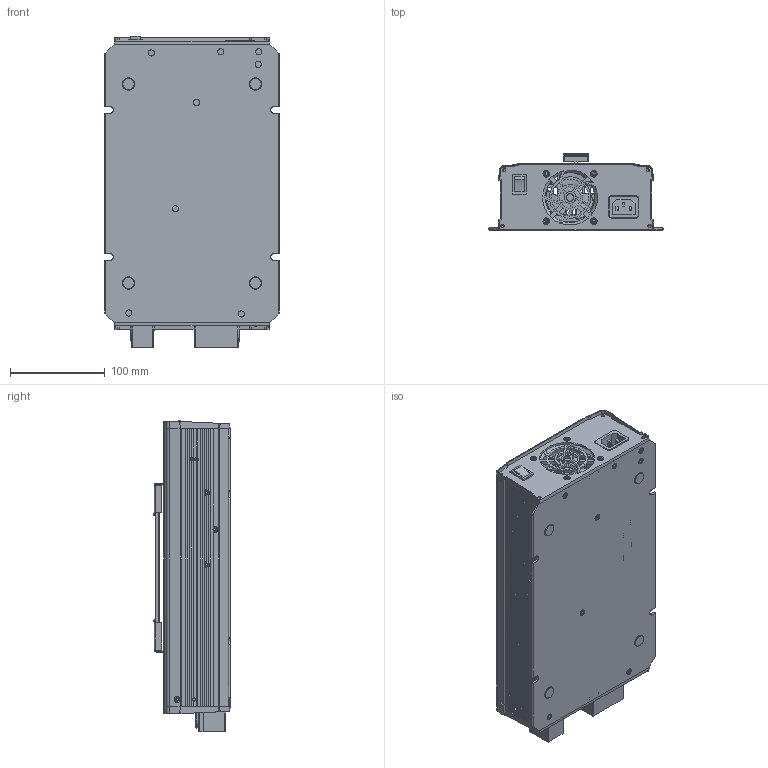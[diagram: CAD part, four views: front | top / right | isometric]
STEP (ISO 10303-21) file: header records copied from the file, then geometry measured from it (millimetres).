
FILE_DESCRIPTION(('Creo Elements/Direct Modeling STEP Export'),'2;1');
FILE_NAME('NPP-1700.stp','2022-03-22T 9:48:22',(''),(''),'PTC Creo Elements/Direct Modeling STEP processor for AP214 (Solid Model)','PTC Creo Elements/Direct Modeling 19.0E 27-Jun-2016 (C) Parametric Technology GmbH','');
FILE_SCHEMA(('AUTOMOTIVE_DESIGN { 1 0 10303 214 1 1 1 1 }'));
Length unit declared in the file: millimetre
Products named in the file (167): p1; USER_LIBRARY-KBJ-GSIB_PRT_49_2; USER_LIBRARY-KBJ-GSIB_PRT_49_2_; TOP_COVER_PRT; PIN_1_2_1_1_12_PRT; PCBG; PCBF; PCBE; PCBD; PCBC; PCBB; PCBA; PCB-C_PRT_4_2; PANEL_3-拔模20210803; PANEL_2-拔模20210803.1; PANEL_2-拔模20210803; PAD_0122_PRT; PAD-8_PRT; PAD-6_PRT; PAD-5_PRT; PAD-4_PRT; PAD-3_PRT_4; PAD-3_PRT; PAD-2_PRT; PAD-1_PRT; PAD-11; P1_12_PRT; P1-60070_1_PRT_2_PRT; MYLAR-2; MYLAR-1_PRT; MYLAR-1; MOS_TO247; MOS_TO247.3; MOS_TO247.2; MOS_TO247.1; M3-6_5L; M3-7L_1_1_2_1_PRT_PRT_4; M3-7L_1_1_2_1_PRT_PRT; M3-6_5L.5; M3-6_5L.4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
Assembly tree (88 placements, depth 2):
  p1
    p1
  USER_LIBRARY-KBJ-GSIB_PRT_49_2_
    USER_LIBRARY-KBJ-GSIB_PRT_49_2
  USER_LIBRARY-KBJ-GSIB_PRT_49_2
    USER_LIBRARY-KBJ-GSIB_PRT_49_2
  TOP_COVER_PRT
    TOP_COVER_PRT
  PIN_1_2_1_1_12_PRT
    PIN_1_2_1_1_12_PRT
Bounding box: 184 x 81.65 x 327.84 mm (x, y, z)
Volume: 743789 mm3; surface area: 822022.7 mm2
Topology: 94 solids, 94 shells, 5005 faces, 13810 edges, 8938 vertices
Faces by surface type: plane 2839, cylinder 1158, cone 570, sphere 190, torus 124, bspline 71, extrusion 53
Entity records: 149383 total; most frequent: CARTESIAN_POINT 33530, ORIENTED_EDGE 24128, DIRECTION 22270, EDGE_CURVE 12064, VECTOR 8320, LINE 8293, VERTEX_POINT 7926, AXIS2_PLACEMENT_3D 6975
